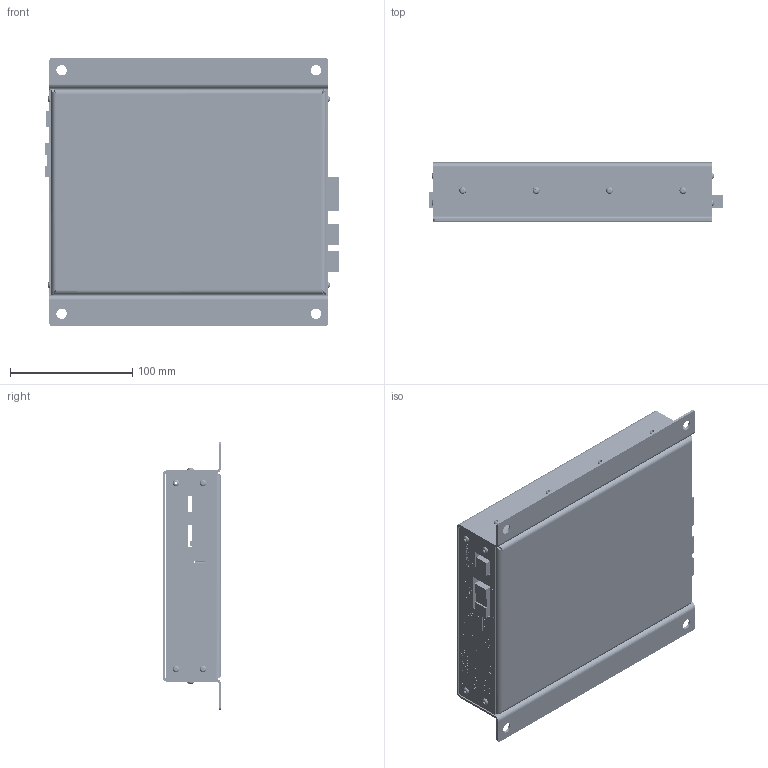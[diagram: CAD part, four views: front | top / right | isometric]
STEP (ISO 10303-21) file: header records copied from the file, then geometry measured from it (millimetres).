
FILE_DESCRIPTION (( 'STEP AP203' ), '1' );
FILE_NAME ('One-Wire.STEP', '2017-04-26T08:06:46', ( '' ), ( '' ), 'SwSTEP 2.0', 'SolidWorks 2017', '' );
FILE_SCHEMA (( 'CONFIG_CONTROL_DESIGN' ));
Length unit declared in the file: millimetre
Products named in the file (376): TR5; R134; R91; R14; R77; R146; J2; R53; TR6; R120; R130; TR1; U6; MEC383.18.01 Base; D37; R56; R51; C28; R45; R48; R133; R73; R101; C34; R17; D15; C24; Q13; DISS1; R44; R96; R123; R61; R150; R108; R36; C27; U1; R5; R69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
Assembly tree (407 placements, depth 3):
  One-Wire
    MEC383.18.01 Base
    DDS757 REVA_MECCANICO
      BOARD
      Plating
      R135
      C18
      C9
      U9
      C1
      R19
      TF2
      R51
      U1
      Q2
      R75
      D47
      TR1
      R119
      D45
      R152
      R102
      J7
      J8
      R151
      TR5
      U8
      R18
      U10
      D2
      R154
      C32
      U11
      Q16
      L9
      U15
      U14
      R80
      R36
      C37
      SH3
      R8
      R28
      Q8
      R109
      D26
      R106
      MV1
      D41
      R59
      R37
      C74
      R12
      R81
      D20
      D28
      C12
      R25
      C81
      C28
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Bounding box: 240.25 x 48 x 219 mm (x, y, z)
Volume: 475867.4 mm3; surface area: 427969.2 mm2
Topology: 601 solids, 601 shells, 14077 faces, 34613 edges, 22272 vertices
Faces by surface type: plane 10099, cylinder 2848, bspline 1080, torus 30, cone 20
Entity records: 502423 total; most frequent: CARTESIAN_POINT 141147, ORIENTED_EDGE 67040, DIRECTION 61466, EDGE_CURVE 33520, VECTOR 26942, LINE 26942, VERTEX_POINT 21698, AXIS2_PLACEMENT_3D 17262
